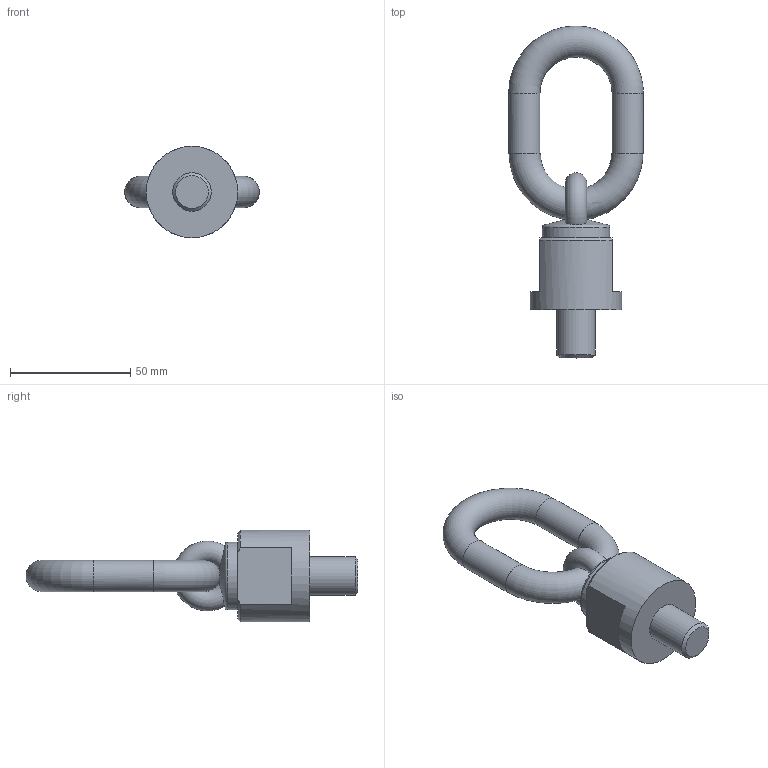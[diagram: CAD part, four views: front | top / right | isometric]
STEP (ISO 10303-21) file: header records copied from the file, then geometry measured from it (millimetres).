
FILE_DESCRIPTION( ( 'STEP AP203' ), '1' );
FILE_NAME( 'p:/temp/worker_4/temp/app_49_0201906261614556230597310e898ce_000000_00_00_000000/format_4/C8000101620.stp', '2019-06-26T14:14:58', ( '' ), ( '' ), ' ', 'PARTsolutions', ' ' );
FILE_SCHEMA( ( 'CONFIG_CONTROL_DESIGN' ) );
Length unit declared in the file: millimetre
Products named in the file (1): _C8000101620
Bounding box: 56 x 137.99 x 38 mm (x, y, z)
Volume: 66060.3 mm3; surface area: 15326.5 mm2
Topology: 1 solids, 1 shells, 25 faces, 65 edges, 40 vertices
Faces by surface type: plane 12, cylinder 5, torus 4, cone 4
Full cylindrical faces by diameter (mm): 13 x2, 16 x1, 28.2 x1, 38 x1
Entity records: 1022 total; most frequent: CARTESIAN_POINT 465, DIRECTION 110, ORIENTED_EDGE 86, AXIS2_PLACEMENT_3D 51, EDGE_CURVE 43, EDGE_LOOP 42, FACE_OUTER_BOUND 34, VERTEX_POINT 32
